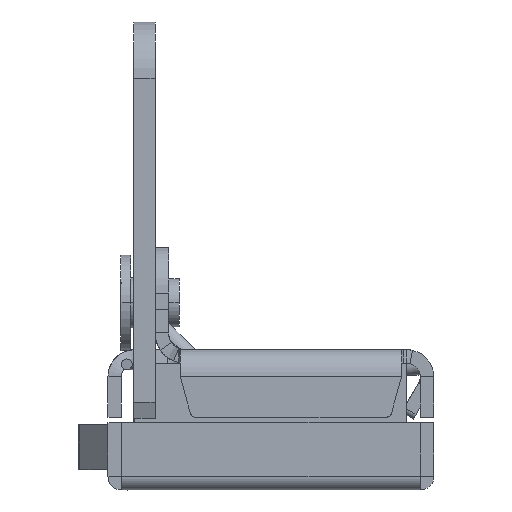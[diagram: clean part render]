
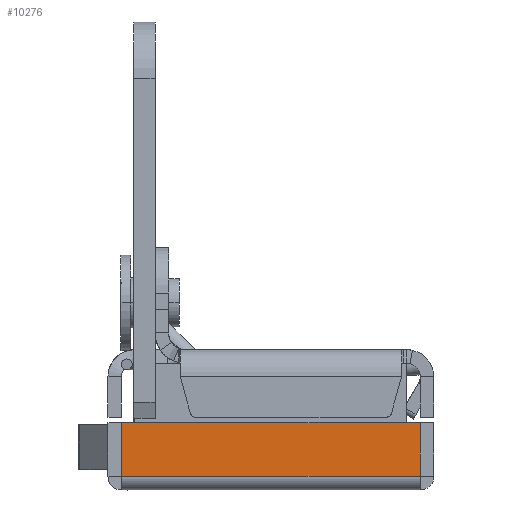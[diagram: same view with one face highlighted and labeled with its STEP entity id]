
A CAD part, left-side view. The second image highlights one B-rep face of the part: STEP entity #10276.
In plain terms, the highlighted planar face has unit normal (-1, 0, 0).
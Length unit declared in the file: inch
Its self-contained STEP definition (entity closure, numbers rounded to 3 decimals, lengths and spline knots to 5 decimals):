
#1942=DIRECTION('',(0.,0.,-1.));
#1943=VECTOR('',#1942,0.299);
#1944=CARTESIAN_POINT('',(-2.239,0.476,0.375));
#1945=LINE('',#1944,#1943);
#1946=DIRECTION('',(0.,1.,0.));
#1947=VECTOR('',#1946,1.66);
#1948=CARTESIAN_POINT('',(-2.239,-1.184,0.375));
#1949=LINE('',#1948,#1947);
#1950=DIRECTION('',(0.,0.,1.));
#1951=VECTOR('',#1950,0.299);
#1952=CARTESIAN_POINT('',(-2.239,-1.184,0.076));
#1953=LINE('',#1952,#1951);
#1954=DIRECTION('',(0.,-1.,0.));
#1955=VECTOR('',#1954,1.66);
#1956=CARTESIAN_POINT('',(-2.239,0.476,0.076));
#1957=LINE('',#1956,#1955);
#6913=CARTESIAN_POINT('',(-2.239,-1.184,0.076));
#6914=VERTEX_POINT('',#6913);
#6923=CARTESIAN_POINT('',(-2.239,0.476,0.375));
#6924=VERTEX_POINT('',#6923);
#6925=CARTESIAN_POINT('',(-2.239,0.476,0.076));
#6926=VERTEX_POINT('',#6925);
#6927=CARTESIAN_POINT('',(-2.239,-1.184,0.375));
#6928=VERTEX_POINT('',#6927);
#10264=CARTESIAN_POINT('',(-2.239,-0.354,0.2255));
#10265=DIRECTION('',(1.,0.,0.));
#10266=DIRECTION('',(0.,0.,1.));
#10267=AXIS2_PLACEMENT_3D('',#10264,#10265,#10266);
#10268=PLANE('',#10267);
#10269=ORIENTED_EDGE('',*,*,#10230,.F.);
#10270=ORIENTED_EDGE('',*,*,#10245,.F.);
#10271=ORIENTED_EDGE('',*,*,#10258,.F.);
#10273=ORIENTED_EDGE('',*,*,#10272,.F.);
#10274=EDGE_LOOP('',(#10269,#10270,#10271,#10273));
#10275=FACE_OUTER_BOUND('',#10274,.F.);
#10276=ADVANCED_FACE('',(#10275),#10268,.F.);
#10230=EDGE_CURVE('',#6924,#6926,#1945,.T.);
#10245=EDGE_CURVE('',#6928,#6924,#1949,.T.);
#10258=EDGE_CURVE('',#6914,#6928,#1953,.T.);
#10272=EDGE_CURVE('',#6926,#6914,#1957,.T.);
